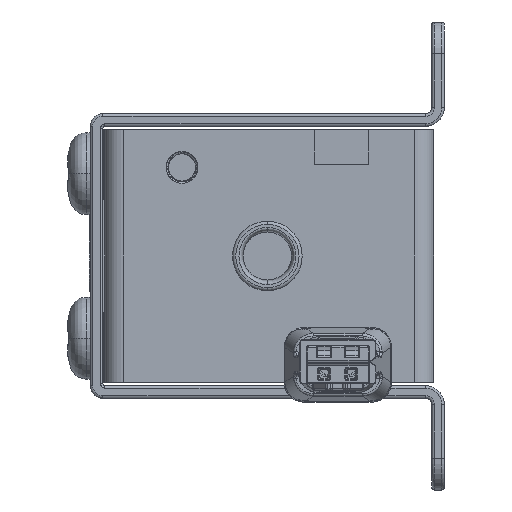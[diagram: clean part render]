
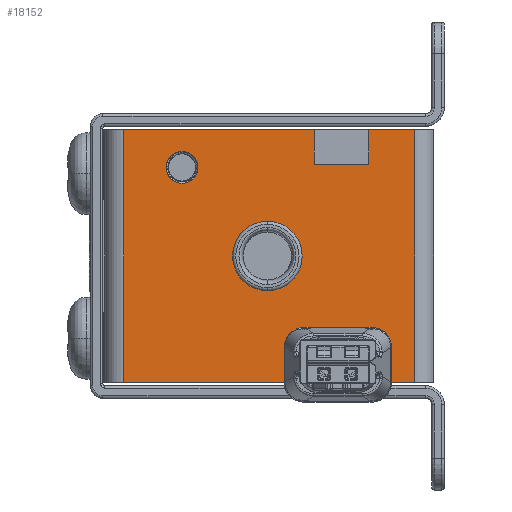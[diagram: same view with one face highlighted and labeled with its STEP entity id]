
A CAD part, left-side view. The second image highlights one B-rep face of the part: STEP entity #18152.
In plain terms, the highlighted planar face has unit normal (-1, 0, 0).
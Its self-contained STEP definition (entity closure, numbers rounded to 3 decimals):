
#13414=DIRECTION('',(0.,-1.,0.));
#13415=VECTOR('',#13414,3.65);
#13416=CARTESIAN_POINT('',(-27.,-7.5,10.));
#13417=LINE('',#13416,#13415);
#13430=DIRECTION('',(0.,-1.,0.));
#13431=VECTOR('',#13430,15.05);
#13432=CARTESIAN_POINT('',(-27.,11.85,10.));
#13433=LINE('',#13432,#13431);
#13576=CARTESIAN_POINT('',(-27.,0.5,0.));
#13577=DIRECTION('',(-1.,0.,0.));
#13578=DIRECTION('',(0.,0.,1.));
#13579=AXIS2_PLACEMENT_3D('',#13576,#13577,#13578);
#13581=CARTESIAN_POINT('',(-27.,0.5,0.));
#13582=DIRECTION('',(-1.,0.,0.));
#13583=DIRECTION('',(0.,0.,-1.));
#13584=AXIS2_PLACEMENT_3D('',#13581,#13582,#13583);
#13586=DIRECTION('',(0.,0.,1.));
#13587=VECTOR('',#13586,2.75);
#13588=CARTESIAN_POINT('',(-27.,-7.5,-10.));
#13589=LINE('',#13588,#13587);
#13590=DIRECTION('',(0.,1.,0.));
#13591=VECTOR('',#13590,4.3);
#13592=CARTESIAN_POINT('',(-27.,-7.5,-7.25));
#13593=LINE('',#13592,#13591);
#13594=DIRECTION('',(0.,0.,1.));
#13595=VECTOR('',#13594,2.75);
#13596=CARTESIAN_POINT('',(-27.,-3.2,-10.));
#13597=LINE('',#13596,#13595);
#13598=DIRECTION('',(0.,0.,-1.));
#13599=VECTOR('',#13598,20.);
#13600=CARTESIAN_POINT('',(-27.,11.85,10.));
#13601=LINE('',#13600,#13599);
#13602=DIRECTION('',(0.,0.,-1.));
#13603=VECTOR('',#13602,2.75);
#13604=CARTESIAN_POINT('',(-27.,-3.2,10.));
#13605=LINE('',#13604,#13603);
#13606=DIRECTION('',(0.,-1.,0.));
#13607=VECTOR('',#13606,4.3);
#13608=CARTESIAN_POINT('',(-27.,-3.2,7.25));
#13609=LINE('',#13608,#13607);
#13610=DIRECTION('',(0.,0.,-1.));
#13611=VECTOR('',#13610,2.75);
#13612=CARTESIAN_POINT('',(-27.,-7.5,10.));
#13613=LINE('',#13612,#13611);
#13614=DIRECTION('',(0.,0.,-1.));
#13615=VECTOR('',#13614,20.);
#13616=CARTESIAN_POINT('',(-27.,-11.15,10.));
#13617=LINE('',#13616,#13615);
#13618=CARTESIAN_POINT('',(-27.,7.25,7.));
#13619=DIRECTION('',(-1.,0.,0.));
#13620=DIRECTION('',(0.,0.,1.));
#13621=AXIS2_PLACEMENT_3D('',#13618,#13619,#13620);
#13623=CARTESIAN_POINT('',(-27.,7.25,7.));
#13624=DIRECTION('',(-1.,0.,0.));
#13625=DIRECTION('',(0.,0.,-1.));
#13626=AXIS2_PLACEMENT_3D('',#13623,#13624,#13625);
#13644=DIRECTION('',(0.,-1.,0.));
#13645=VECTOR('',#13644,3.65);
#13646=CARTESIAN_POINT('',(-27.,-7.5,-10.));
#13647=LINE('',#13646,#13645);
#13694=DIRECTION('',(0.,-1.,0.));
#13695=VECTOR('',#13694,15.05);
#13696=CARTESIAN_POINT('',(-27.,11.85,-10.));
#13697=LINE('',#13696,#13695);
#16169=CARTESIAN_POINT('',(-27.,0.5,2.75));
#16170=CARTESIAN_POINT('',(-27.,0.5,-2.75));
#16171=VERTEX_POINT('',#16169);
#16172=VERTEX_POINT('',#16170);
#16201=CARTESIAN_POINT('',(-27.,11.85,10.));
#16202=CARTESIAN_POINT('',(-27.,11.85,-10.));
#16203=VERTEX_POINT('',#16201);
#16204=VERTEX_POINT('',#16202);
#16205=CARTESIAN_POINT('',(-27.,-11.15,10.));
#16206=CARTESIAN_POINT('',(-27.,-11.15,-10.));
#16207=VERTEX_POINT('',#16205);
#16208=VERTEX_POINT('',#16206);
#16457=CARTESIAN_POINT('',(-27.,-7.5,-10.));
#16458=CARTESIAN_POINT('',(-27.,-7.5,-7.25));
#16459=VERTEX_POINT('',#16457);
#16460=VERTEX_POINT('',#16458);
#16461=CARTESIAN_POINT('',(-27.,-3.2,-7.25));
#16462=VERTEX_POINT('',#16461);
#16463=CARTESIAN_POINT('',(-27.,-3.2,-10.));
#16464=VERTEX_POINT('',#16463);
#16473=CARTESIAN_POINT('',(-27.,-3.2,10.));
#16474=CARTESIAN_POINT('',(-27.,-3.2,7.25));
#16475=VERTEX_POINT('',#16473);
#16476=VERTEX_POINT('',#16474);
#16477=CARTESIAN_POINT('',(-27.,-7.5,7.25));
#16478=VERTEX_POINT('',#16477);
#16479=CARTESIAN_POINT('',(-27.,-7.5,10.));
#16480=VERTEX_POINT('',#16479);
#16517=CARTESIAN_POINT('',(-27.,7.25,8.25));
#16518=CARTESIAN_POINT('',(-27.,7.25,5.75));
#16519=VERTEX_POINT('',#16517);
#16520=VERTEX_POINT('',#16518);
#18113=CARTESIAN_POINT('',(-27.,13.35,-10.));
#18114=DIRECTION('',(-1.,0.,0.));
#18115=DIRECTION('',(0.,-1.,0.));
#18116=AXIS2_PLACEMENT_3D('',#18113,#18114,#18115);
#18117=PLANE('',#18116);
#18119=ORIENTED_EDGE('',*,*,#18118,.T.);
#18121=ORIENTED_EDGE('',*,*,#18120,.T.);
#18123=ORIENTED_EDGE('',*,*,#18122,.F.);
#18125=ORIENTED_EDGE('',*,*,#18124,.F.);
#18127=ORIENTED_EDGE('',*,*,#18126,.F.);
#18128=ORIENTED_EDGE('',*,*,#17878,.T.);
#18130=ORIENTED_EDGE('',*,*,#18129,.T.);
#18132=ORIENTED_EDGE('',*,*,#18131,.T.);
#18134=ORIENTED_EDGE('',*,*,#18133,.F.);
#18135=ORIENTED_EDGE('',*,*,#17855,.T.);
#18137=ORIENTED_EDGE('',*,*,#18136,.T.);
#18139=ORIENTED_EDGE('',*,*,#18138,.F.);
#18140=EDGE_LOOP('',(#18119,#18121,#18123,#18125,#18127,#18128,#18130,#18132,
#18134,#18135,#18137,#18139));
#18141=FACE_OUTER_BOUND('',#18140,.F.);
#18142=ORIENTED_EDGE('',*,*,#18100,.T.);
#18143=ORIENTED_EDGE('',*,*,#18079,.T.);
#18144=EDGE_LOOP('',(#18142,#18143));
#18145=FACE_BOUND('',#18144,.F.);
#18147=ORIENTED_EDGE('',*,*,#18146,.T.);
#18149=ORIENTED_EDGE('',*,*,#18148,.T.);
#18150=EDGE_LOOP('',(#18147,#18149));
#18151=FACE_BOUND('',#18150,.F.);
#18152=ADVANCED_FACE('',(#18141,#18145,#18151),#18117,.T.);
#13580=CIRCLE('',#13579,2.75);
#13585=CIRCLE('',#13584,2.75);
#13622=CIRCLE('',#13621,1.25);
#13627=CIRCLE('',#13626,1.25);
#17855=EDGE_CURVE('',#16480,#16207,#13417,.T.);
#17878=EDGE_CURVE('',#16203,#16475,#13433,.T.);
#18079=EDGE_CURVE('',#16172,#16171,#13585,.T.);
#18100=EDGE_CURVE('',#16171,#16172,#13580,.T.);
#18118=EDGE_CURVE('',#16459,#16460,#13589,.T.);
#18120=EDGE_CURVE('',#16460,#16462,#13593,.T.);
#18122=EDGE_CURVE('',#16464,#16462,#13597,.T.);
#18124=EDGE_CURVE('',#16204,#16464,#13697,.T.);
#18126=EDGE_CURVE('',#16203,#16204,#13601,.T.);
#18129=EDGE_CURVE('',#16475,#16476,#13605,.T.);
#18131=EDGE_CURVE('',#16476,#16478,#13609,.T.);
#18133=EDGE_CURVE('',#16480,#16478,#13613,.T.);
#18136=EDGE_CURVE('',#16207,#16208,#13617,.T.);
#18138=EDGE_CURVE('',#16459,#16208,#13647,.T.);
#18146=EDGE_CURVE('',#16519,#16520,#13622,.T.);
#18148=EDGE_CURVE('',#16520,#16519,#13627,.T.);
